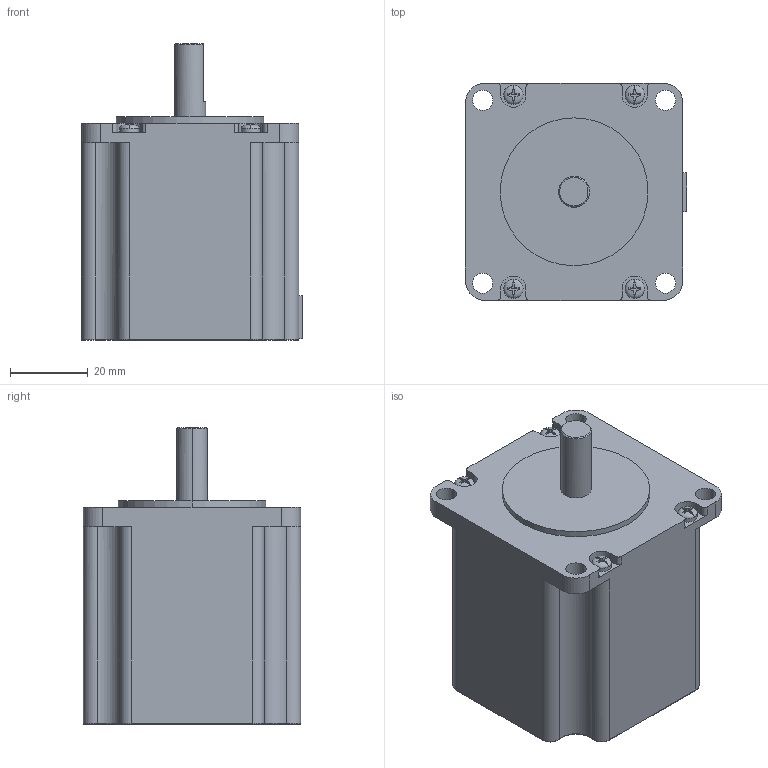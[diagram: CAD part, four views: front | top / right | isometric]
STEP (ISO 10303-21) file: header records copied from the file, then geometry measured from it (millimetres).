
FILE_DESCRIPTION((''),'2;1');
FILE_NAME('QL57HD56-0384A_ASM','2021-11-10T10:20:08',('qingl'),(''),'CREO PARAMETRIC BY PTC INC, 2019224','CREO PARAMETRIC BY PTC INC, 2019224','');
FILE_SCHEMA(('CONFIG_CONTROL_DESIGN'));
Length unit declared in the file: millimetre
Products named in the file (7): ABCD0E94C2B2YBJ6_1; ABCD0E94C2B2YBJ6_2; ABCD0E94C2B2YBJ6_3; ABCD0E94C2B2YBJ6_4; ABCD0E94C2B2YBJ6_5; ABCD0E94C2B2YBJ6_ASM; QL57HD56-0384A_ASM
Assembly tree (6 placements, depth 3):
  QL57HD56-0384A_ASM
    ABCD0E94C2B2YBJ6_ASM
      ABCD0E94C2B2YBJ6_1
      ABCD0E94C2B2YBJ6_2
      ABCD0E94C2B2YBJ6_3
      ABCD0E94C2B2YBJ6_4
      ABCD0E94C2B2YBJ6_5
Bounding box: 57 x 56 x 76.5 mm (x, y, z)
Volume: 159253 mm3; surface area: 20022.3 mm2
Topology: 5 solids, 6 shells, 360 faces, 1006 edges, 663 vertices
Faces by surface type: cylinder 224, plane 99, torus 12, cone 9, bspline 8, revolution 8
Entity records: 17088 total; most frequent: CARTESIAN_POINT 8351, ORIENTED_EDGE 1996, DIRECTION 1504, EDGE_CURVE 998, VERTEX_POINT 663, AXIS2_PLACEMENT_3D 566, B_SPLINE_CURVE_WITH_KNOTS 438, EDGE_LOOP 383
